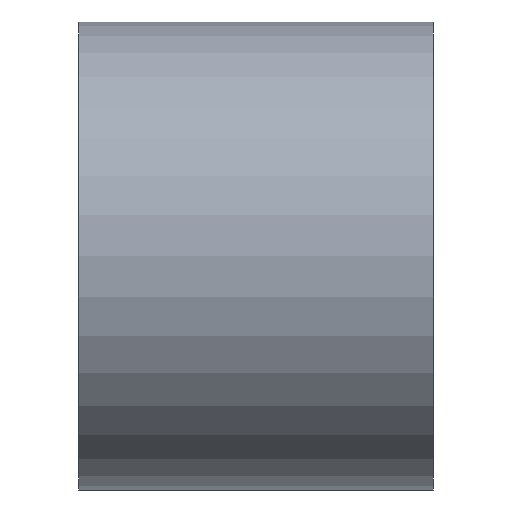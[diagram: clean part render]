
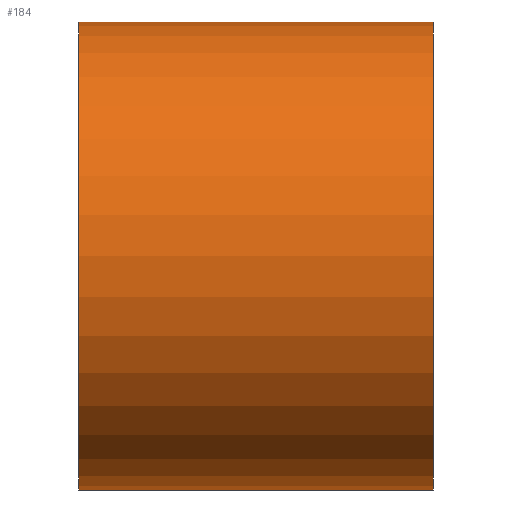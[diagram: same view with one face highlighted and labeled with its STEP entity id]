
A CAD part, left-side view. The second image highlights one B-rep face of the part: STEP entity #184.
In plain terms, the highlighted cylindrical face has radius 3.3 mm (diameter 6.6 mm), a partial arc.
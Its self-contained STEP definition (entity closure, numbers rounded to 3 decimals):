
#6 = CARTESIAN_POINT ( 'NONE',  ( 0., 5., 3.3 ) ) ;
#7 = EDGE_LOOP ( 'NONE', ( #180, #172, #64, #174 ) ) ;
#9 = DIRECTION ( 'NONE',  ( 0., 0., 1. ) ) ;
#20 = AXIS2_PLACEMENT_3D ( 'NONE', #216, #25, #105 ) ;
#25 = DIRECTION ( 'NONE',  ( 0., 1., 0. ) ) ;
#39 = DIRECTION ( 'NONE',  ( 0., -1., 0. ) ) ;
#46 = DIRECTION ( 'NONE',  ( 0., -1., 0. ) ) ;
#47 = CYLINDRICAL_SURFACE ( 'NONE', #219, 3.3 ) ;
#61 = VERTEX_POINT ( 'NONE', #6 ) ;
#62 = CARTESIAN_POINT ( 'NONE',  ( 0., 5., 0. ) ) ;
#64 = ORIENTED_EDGE ( 'NONE', *, *, #80, .T. ) ;
#76 = CARTESIAN_POINT ( 'NONE',  ( 0., 5., 3.3 ) ) ;
#80 = EDGE_CURVE ( 'NONE', #94, #117, #181, .T. ) ;
#94 = VERTEX_POINT ( 'NONE', #215 ) ;
#104 = CIRCLE ( 'NONE', #20, 3.3 ) ;
#105 = DIRECTION ( 'NONE',  ( 0., 0., 1. ) ) ;
#117 = VERTEX_POINT ( 'NONE', #240 ) ;
#124 = EDGE_CURVE ( 'NONE', #61, #128, #148, .T. ) ;
#127 = EDGE_CURVE ( 'NONE', #117, #128, #104, .T. ) ;
#128 = VERTEX_POINT ( 'NONE', #179 ) ;
#134 = FACE_OUTER_BOUND ( 'NONE', #7, .T. ) ;
#135 = VECTOR ( 'NONE', #242, 1000. ) ;
#144 = EDGE_CURVE ( 'NONE', #94, #61, #167, .T. ) ;
#148 = LINE ( 'NONE', #76, #135 ) ;
#166 = DIRECTION ( 'NONE',  ( 0., 0., -1. ) ) ;
#167 = CIRCLE ( 'NONE', #243, 3.3 ) ;
#172 = ORIENTED_EDGE ( 'NONE', *, *, #144, .F. ) ;
#174 = ORIENTED_EDGE ( 'NONE', *, *, #127, .T. ) ;
#179 = CARTESIAN_POINT ( 'NONE',  ( 0., 0., 3.3 ) ) ;
#180 = ORIENTED_EDGE ( 'NONE', *, *, #124, .F. ) ;
#181 = LINE ( 'NONE', #237, #214 ) ;
#184 = ADVANCED_FACE ( 'NONE', ( #134 ), #47, .T. ) ;
#214 = VECTOR ( 'NONE', #39, 1000. ) ;
#215 = CARTESIAN_POINT ( 'NONE',  ( 0., 5., -3.3 ) ) ;
#216 = CARTESIAN_POINT ( 'NONE',  ( 0., 0., 0. ) ) ;
#219 = AXIS2_PLACEMENT_3D ( 'NONE', #226, #46, #166 ) ;
#220 = DIRECTION ( 'NONE',  ( 0., 1., 0. ) ) ;
#226 = CARTESIAN_POINT ( 'NONE',  ( 0., 5., 0. ) ) ;
#237 = CARTESIAN_POINT ( 'NONE',  ( 0., 5., -3.3 ) ) ;
#240 = CARTESIAN_POINT ( 'NONE',  ( 0., 0., -3.3 ) ) ;
#242 = DIRECTION ( 'NONE',  ( 0., -1., 0. ) ) ;
#243 = AXIS2_PLACEMENT_3D ( 'NONE', #62, #220, #9 ) ;
